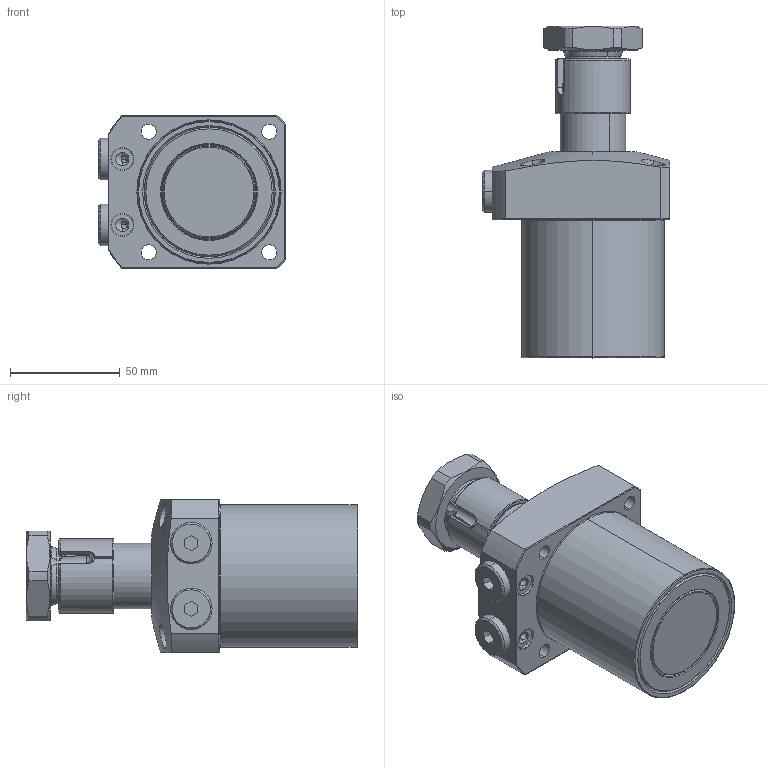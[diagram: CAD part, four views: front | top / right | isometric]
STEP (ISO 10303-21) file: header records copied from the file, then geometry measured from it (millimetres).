
FILE_DESCRIPTION(/* description */ (''),/* implementation_level */ '2;1');
FILE_NAME(/* name */ 'KTRC65-RN30.stp',/* time_stamp */ '2022-11-18T09:23:32+08:00',/* author */ (''),/* organization */ (''),/* preprocessor_version */ 'ST-DEVELOPER v16.7',/* originating_system */ 'SIEMENS PLM Software NX 12.0',/* authorisation */ '');
FILE_SCHEMA (('AP203_CONFIGURATION_CONTROLLED_3D_DESIGN_OF_MECHANICAL_PARTS_AND_ASSEMBLIES_MIM_LF { 1 0 10303 403 2 1 2}'));
Length unit declared in the file: millimetre
Products named in the file (7): KTRC65-RN30-05; KTRC65-RN30-04; KTRC65-RN30-01; KTRC65-RN30-03; KTRC65-RN30-02; KTRC65-RN30-06; LHA0650-CL-Y30_step
Assembly tree (7 placements, depth 2):
  LHA0650-CL-Y30_step
    KTRC65-RN30-06  x2
    KTRC65-RN30-02
    KTRC65-RN30-03
    KTRC65-RN30-01
    KTRC65-RN30-04
    KTRC65-RN30-05
Bounding box: 85.5 x 151.3 x 70 mm (x, y, z)
Volume: 412296.7 mm3; surface area: 58277 mm2
Topology: 7 solids, 7 shells, 234 faces, 547 edges, 341 vertices
Faces by surface type: cylinder 79, plane 78, cone 51, torus 24, sphere 2
Entity records: 7828 total; most frequent: CARTESIAN_POINT 1909, DIRECTION 1107, ORIENTED_EDGE 1034, EDGE_CURVE 517, AXIS2_PLACEMENT_3D 453, VERTEX_POINT 323, EDGE_LOOP 250, CIRCLE 224
